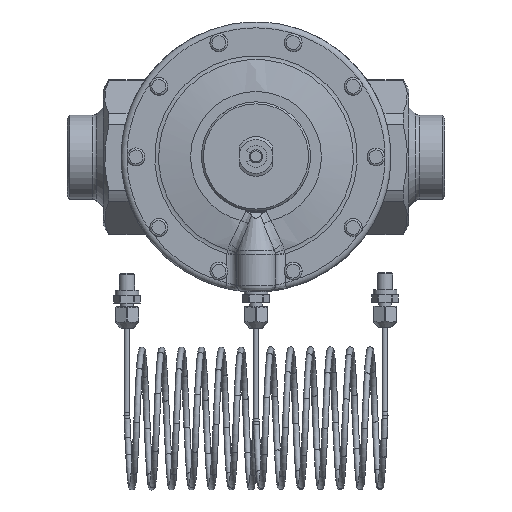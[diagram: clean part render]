
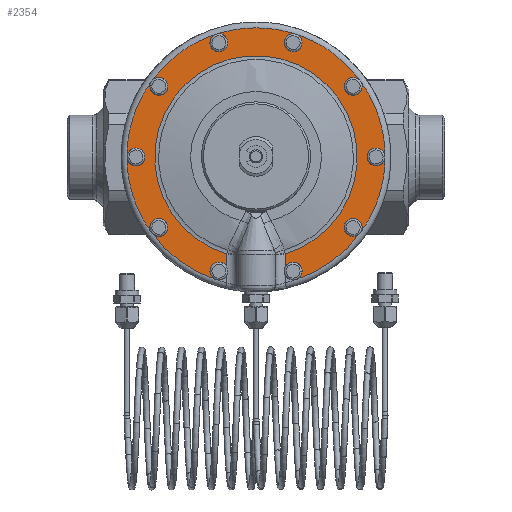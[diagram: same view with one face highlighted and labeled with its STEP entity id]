
A CAD part, top view. The second image highlights one B-rep face of the part: STEP entity #2354.
In plain terms, the highlighted planar face has unit normal (0, 0, 1).
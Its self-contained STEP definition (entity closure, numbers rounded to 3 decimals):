
#356=FACE_OUTER_BOUND('',#4683,.T.);
#696=LINE('',#19051,#993);
#697=LINE('',#19065,#994);
#993=VECTOR('',#14811,1.);
#994=VECTOR('',#14814,1.);
#1234=PLANE('',#12383);
#1539=B_SPLINE_CURVE_WITH_KNOTS('',3,(#19053,#19054,#19055,#19056),.UNSPECIFIED.,
 .F.,.F.,(4,4),(0.,1.),.UNSPECIFIED.);
#1540=B_SPLINE_CURVE_WITH_KNOTS('',3,(#19060,#19061,#19062,#19063),.UNSPECIFIED.,
 .F.,.F.,(4,4),(0.,1.),.UNSPECIFIED.);
#2354=ADVANCED_FACE('',(#356),#1234,.T.);
#4683=EDGE_LOOP('',(#6680,#6681,#6682,#6683,#6684,#6685,#6686,#6687,#6688,
#6689,#6690,#6691,#6692,#6693,#6694,#6695,#6696,#6697,#6698,#6699,#6700,
#6701,#6702,#6703));
#6680=ORIENTED_EDGE('',*,*,#10043,.T.);
#6681=ORIENTED_EDGE('',*,*,#10044,.F.);
#6682=ORIENTED_EDGE('',*,*,#10045,.T.);
#6683=ORIENTED_EDGE('',*,*,#10046,.F.);
#6684=ORIENTED_EDGE('',*,*,#10047,.T.);
#6685=ORIENTED_EDGE('',*,*,#10048,.F.);
#6686=ORIENTED_EDGE('',*,*,#10049,.T.);
#6687=ORIENTED_EDGE('',*,*,#10050,.F.);
#6688=ORIENTED_EDGE('',*,*,#10051,.T.);
#6689=ORIENTED_EDGE('',*,*,#10052,.F.);
#6690=ORIENTED_EDGE('',*,*,#10053,.T.);
#6691=ORIENTED_EDGE('',*,*,#10054,.F.);
#6692=ORIENTED_EDGE('',*,*,#10055,.T.);
#6693=ORIENTED_EDGE('',*,*,#10056,.T.);
#6694=ORIENTED_EDGE('',*,*,#10057,.T.);
#6695=ORIENTED_EDGE('',*,*,#10058,.T.);
#6696=ORIENTED_EDGE('',*,*,#10059,.T.);
#6697=ORIENTED_EDGE('',*,*,#10060,.F.);
#6698=ORIENTED_EDGE('',*,*,#10061,.T.);
#6699=ORIENTED_EDGE('',*,*,#10062,.F.);
#6700=ORIENTED_EDGE('',*,*,#10063,.T.);
#6701=ORIENTED_EDGE('',*,*,#10064,.F.);
#6702=ORIENTED_EDGE('',*,*,#10065,.T.);
#6703=ORIENTED_EDGE('',*,*,#10066,.F.);
#8832=VERTEX_POINT('',#19032);
#8833=VERTEX_POINT('',#19033);
#8834=VERTEX_POINT('',#19036);
#8835=VERTEX_POINT('',#19039);
#8836=VERTEX_POINT('',#19042);
#8837=VERTEX_POINT('',#19045);
#8838=VERTEX_POINT('',#19048);
#8839=VERTEX_POINT('',#19050);
#8840=VERTEX_POINT('',#19052);
#8841=VERTEX_POINT('',#19057);
#8842=VERTEX_POINT('',#19059);
#8843=VERTEX_POINT('',#19064);
#8844=VERTEX_POINT('',#19066);
#8845=VERTEX_POINT('',#19068);
#8846=VERTEX_POINT('',#19070);
#8847=VERTEX_POINT('',#19073);
#10043=EDGE_CURVE('',#8832,#8833,#11229,.T.);
#10044=EDGE_CURVE('',#8833,#8833,#11230,.T.);
#10045=EDGE_CURVE('',#8833,#8834,#11231,.T.);
#10046=EDGE_CURVE('',#8834,#8834,#11232,.T.);
#10047=EDGE_CURVE('',#8834,#8835,#11233,.T.);
#10048=EDGE_CURVE('',#8835,#8835,#11234,.T.);
#10049=EDGE_CURVE('',#8835,#8836,#11235,.T.);
#10050=EDGE_CURVE('',#8836,#8836,#11236,.T.);
#10051=EDGE_CURVE('',#8836,#8837,#11237,.T.);
#10052=EDGE_CURVE('',#8837,#8837,#11238,.T.);
#10053=EDGE_CURVE('',#8837,#8838,#11239,.T.);
#10054=EDGE_CURVE('',#8839,#8838,#11240,.T.);
#10055=EDGE_CURVE('',#8839,#8840,#696,.T.);
#10056=EDGE_CURVE('',#8840,#8841,#1539,.T.);
#10057=EDGE_CURVE('',#8841,#8842,#11241,.T.);
#10058=EDGE_CURVE('',#8842,#8843,#1540,.T.);
#10059=EDGE_CURVE('',#8843,#8844,#697,.T.);
#10060=EDGE_CURVE('',#8845,#8844,#11242,.T.);
#10061=EDGE_CURVE('',#8845,#8846,#11243,.T.);
#10062=EDGE_CURVE('',#8846,#8846,#11244,.T.);
#10063=EDGE_CURVE('',#8846,#8847,#11245,.T.);
#10064=EDGE_CURVE('',#8847,#8847,#11246,.T.);
#10065=EDGE_CURVE('',#8847,#8832,#11247,.T.);
#10066=EDGE_CURVE('',#8832,#8832,#11248,.T.);
#11229=CIRCLE('',#12363,65.);
#11230=CIRCLE('',#12364,4.5);
#11231=CIRCLE('',#12365,65.);
#11232=CIRCLE('',#12366,4.5);
#11233=CIRCLE('',#12367,65.);
#11234=CIRCLE('',#12368,4.5);
#11235=CIRCLE('',#12369,65.);
#11236=CIRCLE('',#12370,4.5);
#11237=CIRCLE('',#12371,65.);
#11238=CIRCLE('',#12372,4.5);
#11239=CIRCLE('',#12373,65.);
#11240=CIRCLE('',#12374,4.5);
#11241=CIRCLE('',#12375,51.024);
#11242=CIRCLE('',#12376,4.5);
#11243=CIRCLE('',#12377,65.);
#11244=CIRCLE('',#12378,4.5);
#11245=CIRCLE('',#12379,65.);
#11246=CIRCLE('',#12380,4.5);
#11247=CIRCLE('',#12381,65.);
#11248=CIRCLE('',#12382,4.5);
#12363=AXIS2_PLACEMENT_3D('',#19031,#14787,#14788);
#12364=AXIS2_PLACEMENT_3D('',#19034,#14789,#14790);
#12365=AXIS2_PLACEMENT_3D('',#19035,#14791,#14792);
#12366=AXIS2_PLACEMENT_3D('',#19037,#14793,#14794);
#12367=AXIS2_PLACEMENT_3D('',#19038,#14795,#14796);
#12368=AXIS2_PLACEMENT_3D('',#19040,#14797,#14798);
#12369=AXIS2_PLACEMENT_3D('',#19041,#14799,#14800);
#12370=AXIS2_PLACEMENT_3D('',#19043,#14801,#14802);
#12371=AXIS2_PLACEMENT_3D('',#19044,#14803,#14804);
#12372=AXIS2_PLACEMENT_3D('',#19046,#14805,#14806);
#12373=AXIS2_PLACEMENT_3D('',#19047,#14807,#14808);
#12374=AXIS2_PLACEMENT_3D('',#19049,#14809,#14810);
#12375=AXIS2_PLACEMENT_3D('',#19058,#14812,#14813);
#12376=AXIS2_PLACEMENT_3D('',#19067,#14815,#14816);
#12377=AXIS2_PLACEMENT_3D('',#19069,#14817,#14818);
#12378=AXIS2_PLACEMENT_3D('',#19071,#14819,#14820);
#12379=AXIS2_PLACEMENT_3D('',#19072,#14821,#14822);
#12380=AXIS2_PLACEMENT_3D('',#19074,#14823,#14824);
#12381=AXIS2_PLACEMENT_3D('',#19075,#14825,#14826);
#12382=AXIS2_PLACEMENT_3D('',#19076,#14827,#14828);
#12383=AXIS2_PLACEMENT_3D('',#19077,#14829,#14830);
#14787=DIRECTION('',(0.,0.,1.));
#14788=DIRECTION('',(1.,0.,0.));
#14789=DIRECTION('',(0.,0.,1.));
#14790=DIRECTION('',(0.588,0.809,0.));
#14791=DIRECTION('',(0.,0.,1.));
#14792=DIRECTION('',(1.,0.,0.));
#14793=DIRECTION('',(0.,0.,1.));
#14794=DIRECTION('',(0.,1.,0.));
#14795=DIRECTION('',(0.,0.,1.));
#14796=DIRECTION('',(1.,0.,0.));
#14797=DIRECTION('',(0.,0.,1.));
#14798=DIRECTION('',(-0.588,0.809,0.));
#14799=DIRECTION('',(0.,0.,1.));
#14800=DIRECTION('',(1.,0.,0.));
#14801=DIRECTION('',(0.,0.,1.));
#14802=DIRECTION('',(-0.951,0.309,0.));
#14803=DIRECTION('',(0.,0.,1.));
#14804=DIRECTION('',(1.,0.,0.));
#14805=DIRECTION('',(0.,0.,1.));
#14806=DIRECTION('',(-0.951,-0.309,0.));
#14807=DIRECTION('',(0.,0.,1.));
#14808=DIRECTION('',(1.,0.,0.));
#14809=DIRECTION('',(0.,0.,1.));
#14810=DIRECTION('',(-0.588,-0.809,0.));
#14811=DIRECTION('',(0.,1.,0.));
#14812=DIRECTION('',(0.,0.,-1.));
#14813=DIRECTION('',(1.,0.,0.));
#14814=DIRECTION('',(0.,-1.,0.));
#14815=DIRECTION('',(0.,0.,1.));
#14816=DIRECTION('',(0.,-1.,0.));
#14817=DIRECTION('',(0.,0.,1.));
#14818=DIRECTION('',(1.,0.,0.));
#14819=DIRECTION('',(0.,0.,1.));
#14820=DIRECTION('',(0.588,-0.809,0.));
#14821=DIRECTION('',(0.,0.,1.));
#14822=DIRECTION('',(1.,0.,0.));
#14823=DIRECTION('',(0.,0.,1.));
#14824=DIRECTION('',(0.951,-0.309,0.));
#14825=DIRECTION('',(0.,0.,1.));
#14826=DIRECTION('',(1.,0.,0.));
#14827=DIRECTION('',(0.,0.,1.));
#14828=DIRECTION('',(0.951,0.309,0.));
#14829=DIRECTION('',(0.,0.,1.));
#14830=DIRECTION('',(1.,0.,0.));
#19031=CARTESIAN_POINT('',(0.,0.,97.));
#19032=CARTESIAN_POINT('',(52.586,38.206,97.));
#19033=CARTESIAN_POINT('',(20.086,61.819,97.));
#19034=CARTESIAN_POINT('',(18.696,57.539,97.));
#19035=CARTESIAN_POINT('',(0.,0.,97.));
#19036=CARTESIAN_POINT('',(-20.086,61.819,97.));
#19037=CARTESIAN_POINT('',(-18.696,57.539,97.));
#19038=CARTESIAN_POINT('',(0.,0.,97.));
#19039=CARTESIAN_POINT('',(-52.586,38.206,97.));
#19040=CARTESIAN_POINT('',(-48.946,35.561,97.));
#19041=CARTESIAN_POINT('',(0.,0.,97.));
#19042=CARTESIAN_POINT('',(-65.,0.,97.));
#19043=CARTESIAN_POINT('',(-60.5,0.,97.));
#19044=CARTESIAN_POINT('',(0.,0.,97.));
#19045=CARTESIAN_POINT('',(-52.586,-38.206,97.));
#19046=CARTESIAN_POINT('',(-48.946,-35.561,97.));
#19047=CARTESIAN_POINT('',(0.,0.,97.));
#19048=CARTESIAN_POINT('',(-20.086,-61.819,97.));
#19049=CARTESIAN_POINT('',(-18.696,-57.539,97.));
#19050=CARTESIAN_POINT('',(-14.697,-55.475,97.));
#19051=CARTESIAN_POINT('',(-14.697,-50.075,97.));
#19052=CARTESIAN_POINT('',(-14.697,-49.039,97.));
#19053=CARTESIAN_POINT('',(-14.697,-49.039,97.));
#19054=CARTESIAN_POINT('',(-14.697,-48.98,97.));
#19055=CARTESIAN_POINT('',(-14.696,-48.921,97.));
#19056=CARTESIAN_POINT('',(-14.695,-48.862,97.));
#19057=CARTESIAN_POINT('',(-14.695,-48.862,97.));
#19058=CARTESIAN_POINT('',(0.,0.,97.));
#19059=CARTESIAN_POINT('',(14.695,-48.862,97.));
#19060=CARTESIAN_POINT('',(14.695,-48.862,97.));
#19061=CARTESIAN_POINT('',(14.696,-48.921,97.));
#19062=CARTESIAN_POINT('',(14.697,-48.98,97.));
#19063=CARTESIAN_POINT('',(14.697,-49.039,97.));
#19064=CARTESIAN_POINT('',(14.697,-49.039,97.));
#19065=CARTESIAN_POINT('',(14.697,-67.29,97.));
#19066=CARTESIAN_POINT('',(14.697,-55.475,97.));
#19067=CARTESIAN_POINT('',(18.696,-57.539,97.));
#19068=CARTESIAN_POINT('',(20.086,-61.819,97.));
#19069=CARTESIAN_POINT('',(0.,0.,97.));
#19070=CARTESIAN_POINT('',(52.586,-38.206,97.));
#19071=CARTESIAN_POINT('',(48.946,-35.561,97.));
#19072=CARTESIAN_POINT('',(0.,0.,97.));
#19073=CARTESIAN_POINT('',(65.,0.,97.));
#19074=CARTESIAN_POINT('',(60.5,0.,97.));
#19075=CARTESIAN_POINT('',(0.,0.,97.));
#19076=CARTESIAN_POINT('',(48.946,35.561,97.));
#19077=CARTESIAN_POINT('',(0.,-68.,97.));
